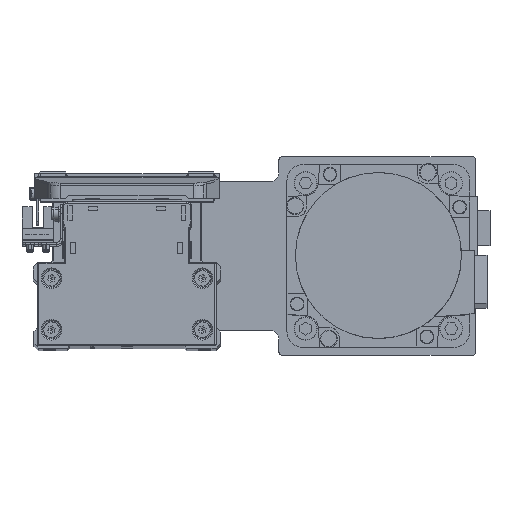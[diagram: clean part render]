
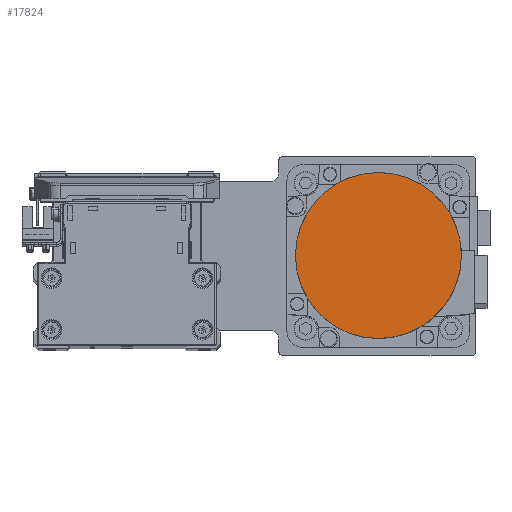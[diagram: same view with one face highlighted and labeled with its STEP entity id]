
A CAD part, top view. The second image highlights one B-rep face of the part: STEP entity #17824.
In plain terms, the highlighted planar face has unit normal (0, 0, 1) as drawn and (0, 0, -1) by its records, which use the part's own axes.
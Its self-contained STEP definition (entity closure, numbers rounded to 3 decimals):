
#53 = DIRECTION ( 'NONE',  ( 0., 0., 1. ) ) ;
#7924 = CARTESIAN_POINT ( 'NONE',  ( 0., 0., -122.2 ) ) ;
#8377 = CARTESIAN_POINT ( 'NONE',  ( 0., 0., -122.2 ) ) ;
#10301 = EDGE_CURVE ( 'NONE', #23316, #15844, #12243, .T. ) ;
#10584 = CARTESIAN_POINT ( 'NONE',  ( 0., -36.3, -122.2 ) ) ;
#10977 = EDGE_CURVE ( 'NONE', #15844, #23316, #29014, .T. ) ;
#11785 = AXIS2_PLACEMENT_3D ( 'NONE', #27427, #53, #12239 ) ;
#12239 = DIRECTION ( 'NONE',  ( 0., -1., 0. ) ) ;
#12243 = CIRCLE ( 'NONE', #34600, 36.3 ) ;
#15844 = VERTEX_POINT ( 'NONE', #10584 ) ;
#17824 = ADVANCED_FACE ( 'NONE', ( #23557 ), #35777, .F. ) ;
#20114 = DIRECTION ( 'NONE',  ( 0., 0., 1. ) ) ;
#20570 = DIRECTION ( 'NONE',  ( 0., 0., 1. ) ) ;
#22455 = ORIENTED_EDGE ( 'NONE', *, *, #10977, .F. ) ;
#23316 = VERTEX_POINT ( 'NONE', #31938 ) ;
#23557 = FACE_OUTER_BOUND ( 'NONE', #38343, .T. ) ;
#27427 = CARTESIAN_POINT ( 'NONE',  ( 0., 0., -122.2 ) ) ;
#29014 = CIRCLE ( 'NONE', #11785, 36.3 ) ;
#31938 = CARTESIAN_POINT ( 'NONE',  ( 0., 36.3, -122.2 ) ) ;
#32302 = DIRECTION ( 'NONE',  ( 0., 1., 0. ) ) ;
#32760 = DIRECTION ( 'NONE',  ( 1., 0., 0. ) ) ;
#34600 = AXIS2_PLACEMENT_3D ( 'NONE', #7924, #20114, #32302 ) ;
#35777 = PLANE ( 'NONE',  #36761 ) ;
#36761 = AXIS2_PLACEMENT_3D ( 'NONE', #8377, #20570, #32760 ) ;
#38343 = EDGE_LOOP ( 'NONE', ( #39014, #22455 ) ) ;
#39014 = ORIENTED_EDGE ( 'NONE', *, *, #10301, .F. ) ;
